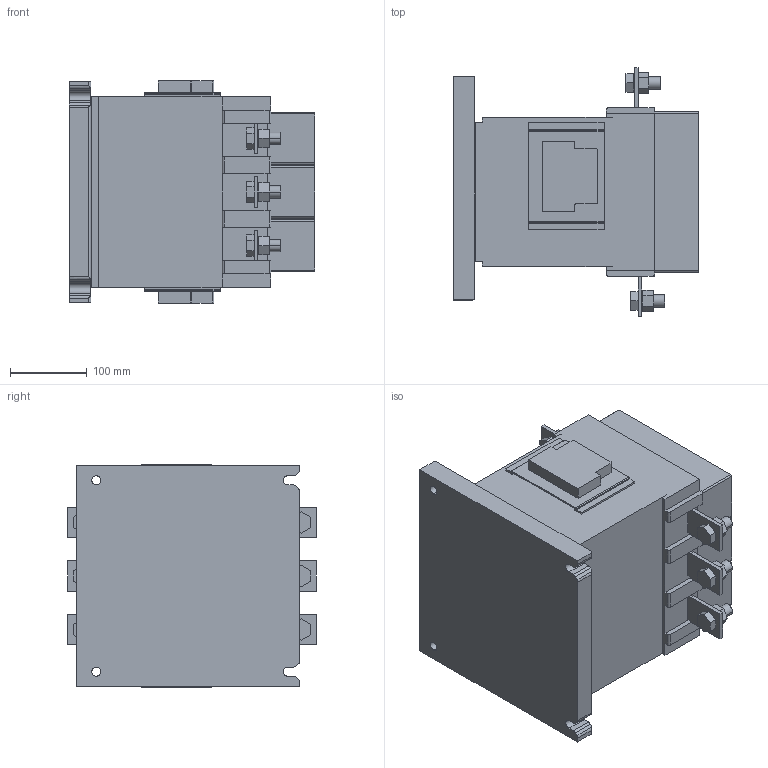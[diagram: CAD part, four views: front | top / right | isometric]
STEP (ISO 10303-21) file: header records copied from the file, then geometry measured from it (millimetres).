
FILE_DESCRIPTION( ( '' ), '1' );
FILE_NAME( 'E:/D&C電子外形図_3D/step/distribution/new_sc_neo_sc/mag/SC-N14.stp', '2013-02-13T02:41:13', ( '' ), ( '' ), ' ', ' ', ' ' );
FILE_SCHEMA( ( 'automotive_design' ) );
Length unit declared in the file: millimetre
Products named in the file (23): 1; 2; 3; 4; 5; 6; 7; 8; 9; 10; 11; 12; 13; 14; 15; 16; 17; 18; 19; 20; 21; 22; 23
Bounding box: 320.5 x 325 x 290.4 mm (x, y, z)
Volume: 17004679.1 mm3; surface area: 880549.2 mm2
Topology: 23 solids, 23 shells, 418 faces, 1092 edges, 728 vertices
Faces by surface type: plane 300, cylinder 118
Entity records: 25894 total; most frequent: CARTESIAN_POINT 2313, STYLED_ITEM 2261, PRESENTATION_STYLE_ASSIGNMENT 2261, COLOUR_RGB 2261, DIRECTION 2202, ORIENTED_EDGE 2184, EDGE_CURVE 1092, CURVE_STYLE 1092
